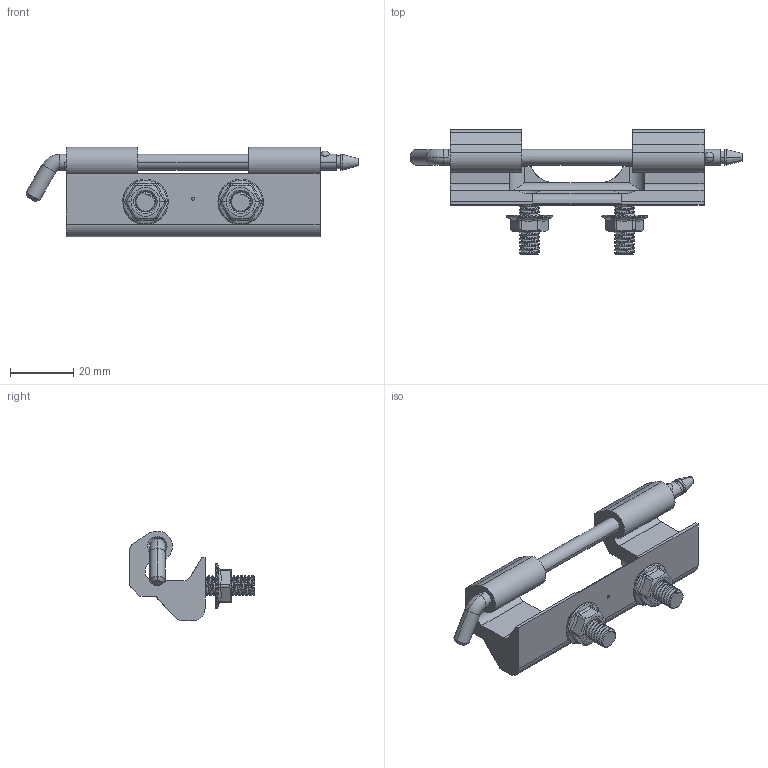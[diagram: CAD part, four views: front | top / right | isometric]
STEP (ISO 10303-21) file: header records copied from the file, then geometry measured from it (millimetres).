
FILE_DESCRIPTION((''),'2;1');
FILE_NAME('SCE-3916SS_ASM','2022-09-22T13:05:38',('mikek'),('SAGINAW CONTROL & ENGINEERING'),'CREO PARAMETRIC BY PTC INC, 2021284','CREO PARAMETRIC BY PTC INC, 2021284','');
FILE_SCHEMA(('AUTOMOTIVE_DESIGN { 1 0 10303 214 1 1 1 1 }'));
Length unit declared in the file: inch
Products named in the file (6): 101383; 101383-STUD; 101383_ASM; 101221; 100882; SCE-3916SS_ASM
Assembly tree (7 placements, depth 3):
  SCE-3916SS_ASM
    101383_ASM
      101383
      101383-STUD  x2
    101221
    100882  x2
Bounding box: 104.6 x 39.19 x 28.24 mm (x, y, z)
Volume: 20628.1 mm3; surface area: 12954.4 mm2
Topology: 7 solids, 7 shells, 725 faces, 1984 edges, 1278 vertices
Faces by surface type: bspline 306, plane 231, cylinder 148, cone 22, torus 14, sphere 4
Entity records: 28927 total; most frequent: CARTESIAN_POINT 16128, ORIENTED_EDGE 2382, DIRECTION 1390, EDGE_CURVE 1191, PRESENTATION_STYLE_ASSIGNMENT 854, STYLED_ITEM 854, CURVE_STYLE 850, VERTEX_POINT 771
